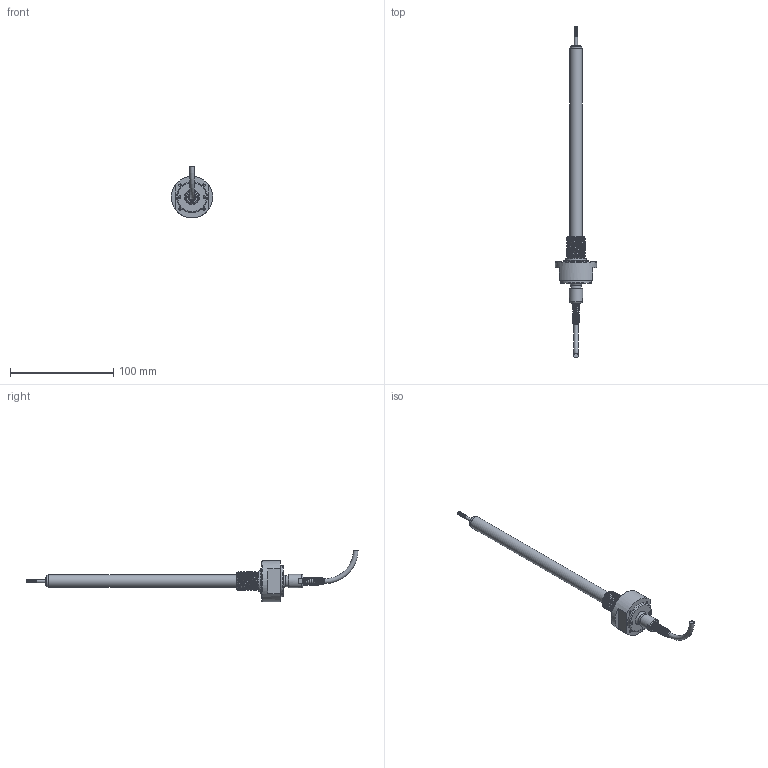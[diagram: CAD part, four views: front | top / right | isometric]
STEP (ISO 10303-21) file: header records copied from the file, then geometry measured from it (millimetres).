
FILE_DESCRIPTION( ( 'STEP AP214' ), '1' );
FILE_NAME( 'N:/Engineering/CAD_Solid/LVDT/HYD/Kunden-3D-Modell/SM50-HYD-18-K.stp', '2011-12-14T13:48:41', ( ' ' ), ( ' ' ), 'XStep 1.0', ' ', ' ' );
FILE_SCHEMA( ( 'CONFIG_CONTROL_DESIGN) ( )' ) );
Length unit declared in the file: metre
Products named in the file (12): 1; 2; 3; 4; 5; 6; 7; 8; 9; 10; 11; 12
Bounding box: 40 x 321.25 x 50 mm (x, y, z)
Volume: 1245.2 mm3; surface area: 19917.5 mm2
Topology: 2 solids, 75 shells, 79 faces, 289 edges, 239 vertices
Faces by surface type: plane 24, cylinder 23, cone 16, bspline 11, torus 5
Full cylindrical faces by diameter (mm): 2.5 x5, 2.6 x2, 3 x1, 4 x1, 4.5 x1, 6 x1, 8 x1, 8.2 x1, 10.6 x1, 11 x1, 12 x1, 13 x1, 15.8 x1, 24 x1, 30 x1, 40 x1
Entity records: 17584 total; most frequent: CARTESIAN_POINT 14847, DIRECTION 452, ORIENTED_EDGE 214, AXIS2_PLACEMENT_3D 212, EDGE_CURVE 211, VERTEX_POINT 211, CIRCLE 133, EDGE_LOOP 132
